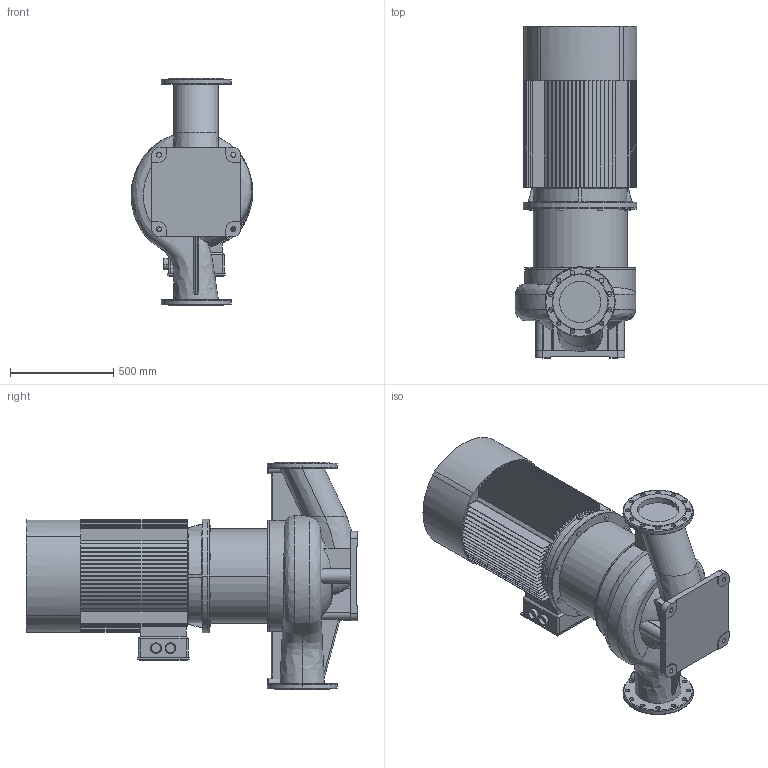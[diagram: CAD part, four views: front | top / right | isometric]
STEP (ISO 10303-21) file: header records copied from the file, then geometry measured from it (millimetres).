
FILE_DESCRIPTION (( 'STEP AP203' ), '1' );
FILE_NAME ('TD200-50_4.STEP', '2022-05-02T17:41:36', ( '' ), ( '' ), 'SwSTEP 2.0', 'SolidWorks 2019', '' );
FILE_SCHEMA (( 'CONFIG_CONTROL_DESIGN' ));
Length unit declared in the file: millimetre
Products named in the file (4): TD200-50_4; ED_B5_YE2-280M-4 (90); Fon_200_TD200-50_4; Pr_ch 200_TD200-50_4
Assembly tree (3 placements, depth 2):
  TD200-50_4
    Pr_ch 200_TD200-50_4
    Fon_200_TD200-50_4
    ED_B5_YE2-280M-4 (90)
Bounding box: 590.3 x 1607 x 1100 mm (x, y, z)
Volume: 291004609.8 mm3; surface area: 8696546.1 mm2
Topology: 5 solids, 7 shells, 816 faces, 2272 edges, 1508 vertices
Faces by surface type: plane 555, cylinder 189, torus 33, bspline 22, cone 17
Entity records: 35400 total; most frequent: CARTESIAN_POINT 13549, ORIENTED_EDGE 4544, DIRECTION 4451, EDGE_CURVE 2272, AXIS2_PLACEMENT_3D 1531, VERTEX_POINT 1508, VECTOR 1389, LINE 1389
